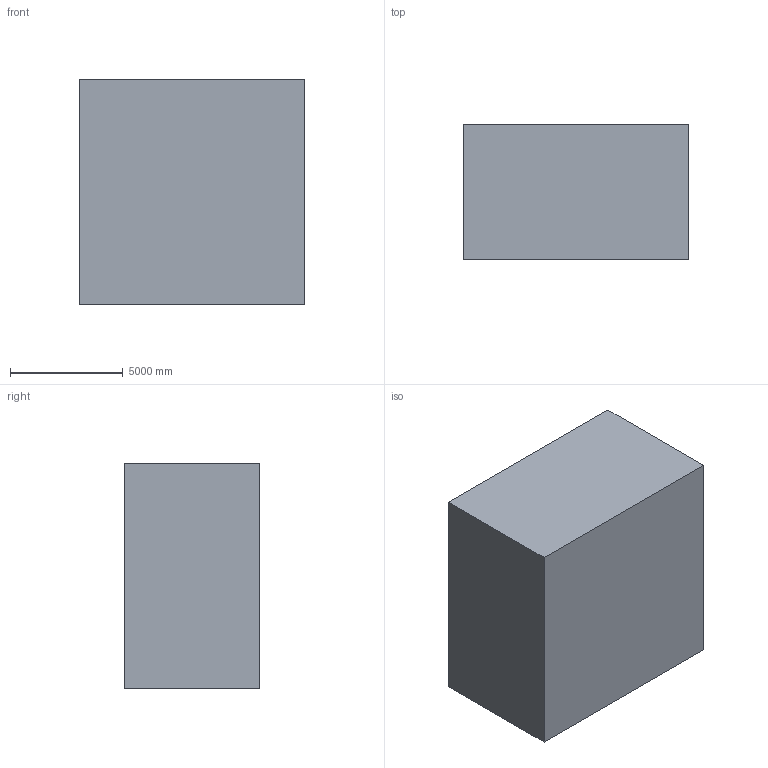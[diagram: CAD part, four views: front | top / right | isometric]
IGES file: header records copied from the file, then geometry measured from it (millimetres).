
Global section: file name: D:\univ\Stability_RD_Committee\Website\Benchmark_data\GustoMSC\WIP\R02\UNITS-data-sheet-jackup-and-semisub-Rev-2\Geometry\SemiSub_COMPARTMENT.igs; native system: Rhinoceros ( Dec 12 2013 ); preprocessor: Trout Lake IGES 012 Dec 12 2013; date: 140212.193537; units: metre
Bounding box: 10000 x 6000 x 10000 mm (x, y, z)
Surface area: 440000000 mm2 (no closed solid volume)
Topology: 0 solids, 0 shells, 6 faces, 24 edges, 24 vertices
Faces by surface type: bspline 6
